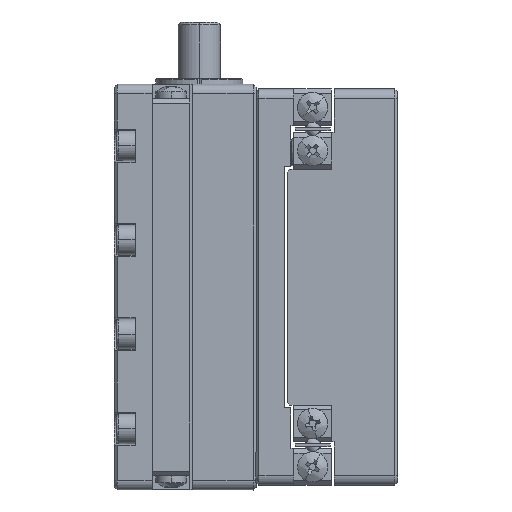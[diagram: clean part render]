
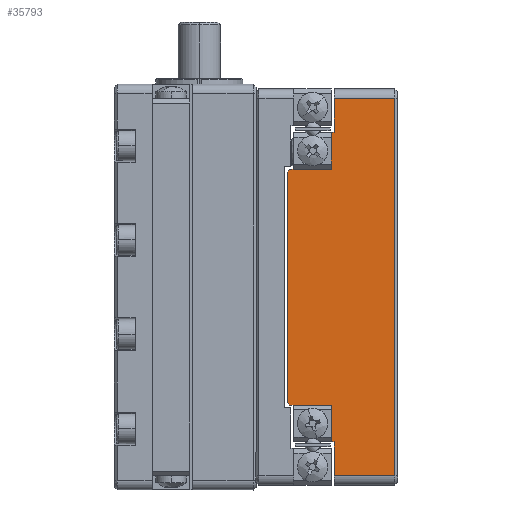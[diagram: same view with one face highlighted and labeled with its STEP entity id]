
A CAD part, left-side view. The second image highlights one B-rep face of the part: STEP entity #35793.
In plain terms, the highlighted planar face has unit normal (-1, 0, 0).
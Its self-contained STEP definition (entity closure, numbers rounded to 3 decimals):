
#1667 = VECTOR ( 'NONE', #56288, 1000. ) ;
#1714 = CARTESIAN_POINT ( 'NONE',  ( -8.411, 8.45, -12.5 ) ) ;
#1723 = VECTOR ( 'NONE', #104564, 1000. ) ;
#2642 = VERTEX_POINT ( 'NONE', #49698 ) ;
#2754 = VECTOR ( 'NONE', #99753, 1000. ) ;
#3132 = LINE ( 'NONE', #59627, #100479 ) ;
#3871 = CARTESIAN_POINT ( 'NONE',  ( -8.411, 3.45, 0. ) ) ;
#4240 = ORIENTED_EDGE ( 'NONE', *, *, #51667, .F. ) ;
#5575 = ORIENTED_EDGE ( 'NONE', *, *, #75888, .F. ) ;
#5580 = VERTEX_POINT ( 'NONE', #70910 ) ;
#6282 = ORIENTED_EDGE ( 'NONE', *, *, #106833, .F. ) ;
#7775 = VERTEX_POINT ( 'NONE', #17248 ) ;
#8196 = CARTESIAN_POINT ( 'NONE',  ( -8.411, 8.15, -12.5 ) ) ;
#10031 = CARTESIAN_POINT ( 'NONE',  ( -8.411, 3.45, -16.4 ) ) ;
#10799 = DIRECTION ( 'NONE',  ( 0., 0.707, 0.707 ) ) ;
#12154 = CARTESIAN_POINT ( 'NONE',  ( -8.411, 8.45, 21. ) ) ;
#12412 = VERTEX_POINT ( 'NONE', #73972 ) ;
#14463 = LINE ( 'NONE', #99388, #2754 ) ;
#15098 = LINE ( 'NONE', #1714, #65070 ) ;
#15195 = CARTESIAN_POINT ( 'NONE',  ( -8.411, 8.15, 12.5 ) ) ;
#16422 = EDGE_CURVE ( 'NONE', #42613, #20459, #72880, .T. ) ;
#16569 = ORIENTED_EDGE ( 'NONE', *, *, #42480, .F. ) ;
#17248 = CARTESIAN_POINT ( 'NONE',  ( -8.411, 8.45, 12.2 ) ) ;
#17460 = VECTOR ( 'NONE', #96549, 1000. ) ;
#18080 = EDGE_LOOP ( 'NONE', ( #55024, #40682, #61015, #32086, #6282, #4240, #5575, #39278, #16569, #95111, #38995, #102317, #100496, #47798 ) ) ;
#18212 = CARTESIAN_POINT ( 'NONE',  ( -8.411, 3.75, -12.5 ) ) ;
#18927 = DIRECTION ( 'NONE',  ( 0., 0., -1. ) ) ;
#19278 = CARTESIAN_POINT ( 'NONE',  ( -8.411, 3.75, 16.4 ) ) ;
#19588 = LINE ( 'NONE', #37301, #44610 ) ;
#20459 = VERTEX_POINT ( 'NONE', #89141 ) ;
#22771 = CARTESIAN_POINT ( 'NONE',  ( -8.411, 8.45, 21. ) ) ;
#23399 = LINE ( 'NONE', #15195, #86650 ) ;
#23680 = AXIS2_PLACEMENT_3D ( 'NONE', #12154, #103408, #45594 ) ;
#24942 = LINE ( 'NONE', #50611, #98757 ) ;
#25537 = VECTOR ( 'NONE', #51814, 1000. ) ;
#25711 = CARTESIAN_POINT ( 'NONE',  ( -8.411, 8.15, 12.5 ) ) ;
#26357 = VERTEX_POINT ( 'NONE', #25711 ) ;
#26568 = EDGE_CURVE ( 'NONE', #12412, #30763, #24942, .T. ) ;
#27423 = CARTESIAN_POINT ( 'NONE',  ( -8.411, 3.45, -20. ) ) ;
#29443 = EDGE_CURVE ( 'NONE', #50469, #42613, #97446, .T. ) ;
#30295 = DIRECTION ( 'NONE',  ( 0., 0., 1. ) ) ;
#30763 = VERTEX_POINT ( 'NONE', #27423 ) ;
#30846 = DIRECTION ( 'NONE',  ( 0., 0., 1. ) ) ;
#31425 = VERTEX_POINT ( 'NONE', #51923 ) ;
#32086 = ORIENTED_EDGE ( 'NONE', *, *, #59732, .F. ) ;
#35793 = ADVANCED_FACE ( 'NONE', ( #102944 ), #45979, .F. ) ;
#37301 = CARTESIAN_POINT ( 'NONE',  ( -8.411, -2.95, 21. ) ) ;
#37559 = VERTEX_POINT ( 'NONE', #75909 ) ;
#38167 = VECTOR ( 'NONE', #30295, 1000. ) ;
#38995 = ORIENTED_EDGE ( 'NONE', *, *, #95573, .F. ) ;
#39105 = EDGE_CURVE ( 'NONE', #42908, #37559, #75766, .T. ) ;
#39278 = ORIENTED_EDGE ( 'NONE', *, *, #26568, .F. ) ;
#40682 = ORIENTED_EDGE ( 'NONE', *, *, #95941, .F. ) ;
#42412 = VERTEX_POINT ( 'NONE', #18212 ) ;
#42480 = EDGE_CURVE ( 'NONE', #2642, #12412, #19588, .T. ) ;
#42613 = VERTEX_POINT ( 'NONE', #19278 ) ;
#42908 = VERTEX_POINT ( 'NONE', #8196 ) ;
#42956 = VERTEX_POINT ( 'NONE', #10031 ) ;
#44610 = VECTOR ( 'NONE', #18927, 1000. ) ;
#45594 = DIRECTION ( 'NONE',  ( 0., 0., -1. ) ) ;
#45979 = PLANE ( 'NONE',  #23680 ) ;
#47798 = ORIENTED_EDGE ( 'NONE', *, *, #104448, .F. ) ;
#49698 = CARTESIAN_POINT ( 'NONE',  ( -8.411, -2.95, 20. ) ) ;
#50469 = VERTEX_POINT ( 'NONE', #63531 ) ;
#50611 = CARTESIAN_POINT ( 'NONE',  ( -8.411, 8.45, -20. ) ) ;
#51667 = EDGE_CURVE ( 'NONE', #42956, #5580, #14463, .T. ) ;
#51814 = DIRECTION ( 'NONE',  ( 0., -1., 0. ) ) ;
#51912 = DIRECTION ( 'NONE',  ( 0., 1., 0. ) ) ;
#51923 = CARTESIAN_POINT ( 'NONE',  ( -8.411, 3.45, 20. ) ) ;
#52163 = CARTESIAN_POINT ( 'NONE',  ( -8.411, 8.45, 16.4 ) ) ;
#53815 = LINE ( 'NONE', #3871, #55177 ) ;
#55024 = ORIENTED_EDGE ( 'NONE', *, *, #73355, .F. ) ;
#55177 = VECTOR ( 'NONE', #105673, 1000. ) ;
#55376 = LINE ( 'NONE', #22771, #100248 ) ;
#56288 = DIRECTION ( 'NONE',  ( 0., -1., 0. ) ) ;
#59627 = CARTESIAN_POINT ( 'NONE',  ( -8.411, 3.45, 0. ) ) ;
#59732 = EDGE_CURVE ( 'NONE', #42412, #42908, #15098, .T. ) ;
#61015 = ORIENTED_EDGE ( 'NONE', *, *, #39105, .F. ) ;
#62222 = CARTESIAN_POINT ( 'NONE',  ( -8.411, 3.75, 21. ) ) ;
#63531 = CARTESIAN_POINT ( 'NONE',  ( -8.411, 3.75, 12.5 ) ) ;
#64128 = CARTESIAN_POINT ( 'NONE',  ( -8.411, 3.75, 21. ) ) ;
#64755 = LINE ( 'NONE', #95049, #1723 ) ;
#65070 = VECTOR ( 'NONE', #51912, 1000. ) ;
#65906 = DIRECTION ( 'NONE',  ( 0., -0.707, 0.707 ) ) ;
#66497 = VECTOR ( 'NONE', #10799, 1000. ) ;
#67894 = DIRECTION ( 'NONE',  ( 0., 1., 0. ) ) ;
#68706 = LINE ( 'NONE', #62222, #17460 ) ;
#70910 = CARTESIAN_POINT ( 'NONE',  ( -8.411, 3.75, -16.4 ) ) ;
#72880 = LINE ( 'NONE', #52163, #25537 ) ;
#73355 = EDGE_CURVE ( 'NONE', #7775, #26357, #23399, .T. ) ;
#73964 = CARTESIAN_POINT ( 'NONE',  ( -8.411, 8.45, 20. ) ) ;
#73972 = CARTESIAN_POINT ( 'NONE',  ( -8.411, -2.95, -20. ) ) ;
#75766 = LINE ( 'NONE', #95060, #66497 ) ;
#75888 = EDGE_CURVE ( 'NONE', #30763, #42956, #53815, .T. ) ;
#75909 = CARTESIAN_POINT ( 'NONE',  ( -8.411, 8.45, -12.2 ) ) ;
#83598 = DIRECTION ( 'NONE',  ( 0., 0., 1. ) ) ;
#85882 = EDGE_CURVE ( 'NONE', #31425, #2642, #104153, .T. ) ;
#86650 = VECTOR ( 'NONE', #65906, 1000. ) ;
#89141 = CARTESIAN_POINT ( 'NONE',  ( -8.411, 3.45, 16.4 ) ) ;
#95049 = CARTESIAN_POINT ( 'NONE',  ( -8.411, 8.45, 12.5 ) ) ;
#95060 = CARTESIAN_POINT ( 'NONE',  ( -8.411, 8.15, -12.5 ) ) ;
#95111 = ORIENTED_EDGE ( 'NONE', *, *, #85882, .F. ) ;
#95573 = EDGE_CURVE ( 'NONE', #20459, #31425, #3132, .T. ) ;
#95941 = EDGE_CURVE ( 'NONE', #37559, #7775, #55376, .T. ) ;
#96549 = DIRECTION ( 'NONE',  ( 0., 0., 1. ) ) ;
#97446 = LINE ( 'NONE', #64128, #38167 ) ;
#98757 = VECTOR ( 'NONE', #67894, 1000. ) ;
#99388 = CARTESIAN_POINT ( 'NONE',  ( -8.411, 8.45, -16.4 ) ) ;
#99753 = DIRECTION ( 'NONE',  ( 0., 1., 0. ) ) ;
#100248 = VECTOR ( 'NONE', #30846, 1000. ) ;
#100479 = VECTOR ( 'NONE', #83598, 1000. ) ;
#100496 = ORIENTED_EDGE ( 'NONE', *, *, #29443, .F. ) ;
#102317 = ORIENTED_EDGE ( 'NONE', *, *, #16422, .F. ) ;
#102944 = FACE_OUTER_BOUND ( 'NONE', #18080, .T. ) ;
#103408 = DIRECTION ( 'NONE',  ( 1., 0., 0. ) ) ;
#104153 = LINE ( 'NONE', #73964, #1667 ) ;
#104448 = EDGE_CURVE ( 'NONE', #26357, #50469, #64755, .T. ) ;
#104564 = DIRECTION ( 'NONE',  ( 0., -1., 0. ) ) ;
#105673 = DIRECTION ( 'NONE',  ( 0., 0., 1. ) ) ;
#106833 = EDGE_CURVE ( 'NONE', #5580, #42412, #68706, .T. ) ;
